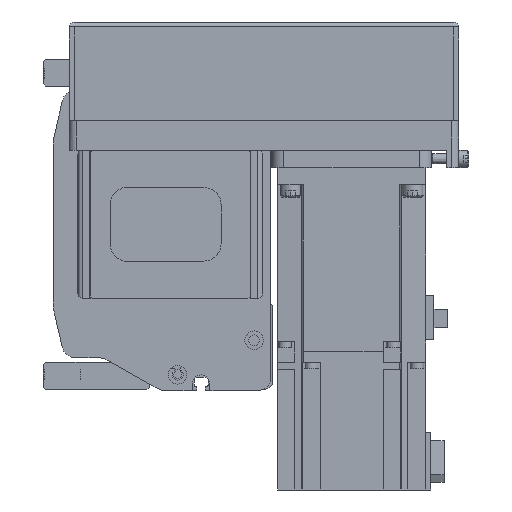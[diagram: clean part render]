
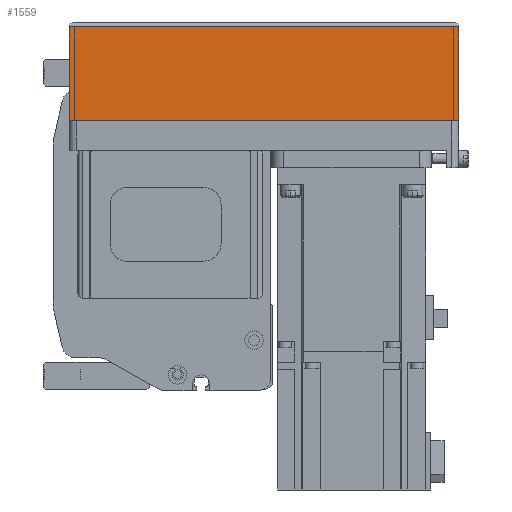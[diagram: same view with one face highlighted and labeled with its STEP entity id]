
A CAD part, left-side view. The second image highlights one B-rep face of the part: STEP entity #1559.
In plain terms, the highlighted planar face has unit normal (-1, 0, 0) as drawn and (0, -1, 0) by its records, which use the part's own axes.
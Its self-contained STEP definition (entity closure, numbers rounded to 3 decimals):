
#1559 = ADVANCED_FACE( '', ( #3980 ), #3981, .T. );
#3980 = FACE_OUTER_BOUND( '', #7546, .T. );
#3981 = PLANE( '', #7547 );
#7546 = EDGE_LOOP( '', ( #12112, #12113, #12114, #12115 ) );
#7547 = AXIS2_PLACEMENT_3D( '', #12116, #12117, #12118 );
#12112 = ORIENTED_EDGE( '', *, *, #21009, .F. );
#12113 = ORIENTED_EDGE( '', *, *, #21010, .F. );
#12114 = ORIENTED_EDGE( '', *, *, #21011, .T. );
#12115 = ORIENTED_EDGE( '', *, *, #21012, .T. );
#12116 = CARTESIAN_POINT( '', ( -158., -39., -12.1 ) );
#12117 = DIRECTION( '', ( 0., -1., 0. ) );
#12118 = DIRECTION( '', ( 0., 0., -1. ) );
#21009 = EDGE_CURVE( '', #25431, #25432, #25433, .T. );
#21010 = EDGE_CURVE( '', #24778, #25431, #25434, .T. );
#21011 = EDGE_CURVE( '', #24778, #25435, #25436, .T. );
#21012 = EDGE_CURVE( '', #25435, #25432, #25437, .T. );
#24778 = VERTEX_POINT( '', #30718 );
#25431 = VERTEX_POINT( '', #31700 );
#25432 = VERTEX_POINT( '', #31701 );
#25433 = LINE( '', #31702, #31703 );
#25434 = LINE( '', #31704, #31705 );
#25435 = VERTEX_POINT( '', #31706 );
#25436 = LINE( '', #31707, #31708 );
#25437 = LINE( '', #31709, #31710 );
#30718 = CARTESIAN_POINT( '', ( -158., -39., -12.1 ) );
#31700 = CARTESIAN_POINT( '', ( 0., -39., -12.1 ) );
#31701 = CARTESIAN_POINT( '', ( 0., -39., -50. ) );
#31702 = CARTESIAN_POINT( '', ( 0., -39., -12.1 ) );
#31703 = VECTOR( '', #38926, 1000. );
#31704 = CARTESIAN_POINT( '', ( -158., -39., -12.1 ) );
#31705 = VECTOR( '', #38927, 1000. );
#31706 = CARTESIAN_POINT( '', ( -158., -39., -50. ) );
#31707 = CARTESIAN_POINT( '', ( -158., -39., -12.1 ) );
#31708 = VECTOR( '', #38928, 1000. );
#31709 = CARTESIAN_POINT( '', ( -158., -39., -50. ) );
#31710 = VECTOR( '', #38929, 1000. );
#38926 = DIRECTION( '', ( 0., 0., -1. ) );
#38927 = DIRECTION( '', ( 1., 0., 0. ) );
#38928 = DIRECTION( '', ( 0., 0., -1. ) );
#38929 = DIRECTION( '', ( 1., 0., 0. ) );
